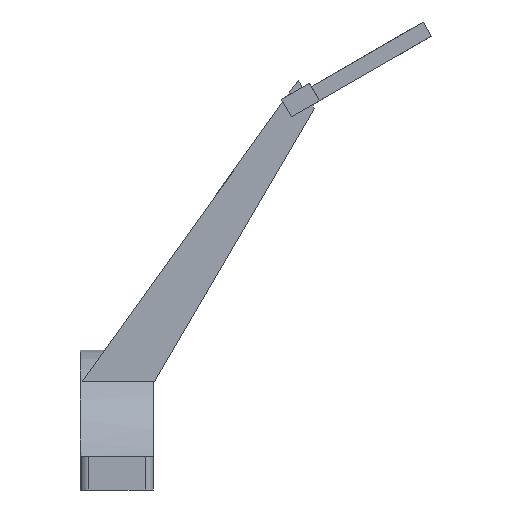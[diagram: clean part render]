
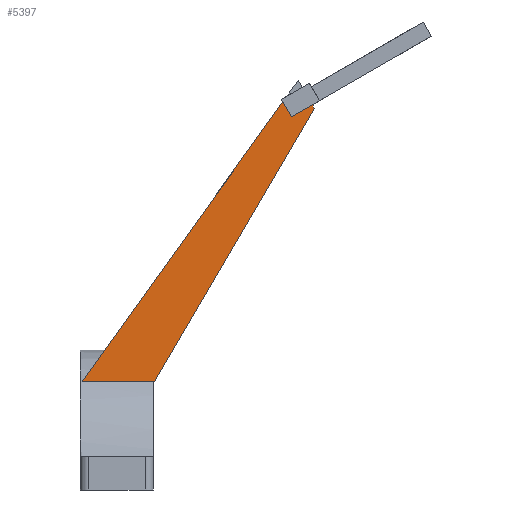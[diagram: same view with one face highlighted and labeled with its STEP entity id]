
A CAD part, front view. The second image highlights one B-rep face of the part: STEP entity #5397.
In plain terms, the highlighted planar face has unit normal (0, -1, 0).
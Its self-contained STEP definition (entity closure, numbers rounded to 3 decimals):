
#33 = CYLINDRICAL_SURFACE('',#34,35.3);
#34 = AXIS2_PLACEMENT_3D('',#35,#36,#37);
#35 = CARTESIAN_POINT('',(-54.,0.,0.));
#36 = DIRECTION('',(-1.,-0.,-0.));
#37 = DIRECTION('',(0.,1.,0.));
#307 = PLANE('',#308);
#308 = AXIS2_PLACEMENT_3D('',#309,#310,#311);
#309 = CARTESIAN_POINT('',(-36.,0.,0.)
  );
#310 = DIRECTION('',(1.,0.,0.));
#311 = DIRECTION('',(-0.,0.,1.));
#456 = VERTEX_POINT('',#457);
#457 = CARTESIAN_POINT('',(-53.565,-22.,27.606));
#475 = PLANE('',#476);
#476 = AXIS2_PLACEMENT_3D('',#477,#478,#479);
#477 = CARTESIAN_POINT('',(-0.124,-18.,102.098));
#478 = DIRECTION('',(0.813,0.,-0.583));
#479 = DIRECTION('',(-0.583,0.,-0.813));
#487 = EDGE_CURVE('',#488,#456,#490,.T.);
#488 = VERTEX_POINT('',#489);
#489 = CARTESIAN_POINT('',(-36.,-22.,27.606));
#490 = SURFACE_CURVE('',#491,(#495,#501),.PCURVE_S1.);
#491 = LINE('',#492,#493);
#492 = CARTESIAN_POINT('',(-54.,-22.,27.606));
#493 = VECTOR('',#494,1.);
#494 = DIRECTION('',(-1.,-0.,-0.));
#495 = PCURVE('',#33,#496);
#496 = DEFINITIONAL_REPRESENTATION('',(#497),#500);
#497 = B_SPLINE_CURVE_WITH_KNOTS('',1,(#498,#499),.UNSPECIFIED.,.F.,.F.,
  (2,2),(-18.,0.),.PIECEWISE_BEZIER_KNOTS.);
#498 = CARTESIAN_POINT('',(-2.244,-18.));
#499 = CARTESIAN_POINT('',(-2.244,0.));
#500 = ( GEOMETRIC_REPRESENTATION_CONTEXT(2) 
PARAMETRIC_REPRESENTATION_CONTEXT() REPRESENTATION_CONTEXT('2D SPACE',''
  ) );
#501 = PCURVE('',#502,#507);
#502 = PLANE('',#503);
#503 = AXIS2_PLACEMENT_3D('',#504,#505,#506);
#504 = CARTESIAN_POINT('',(-23.124,-22.,61.121));
#505 = DIRECTION('',(-0.,-1.,-0.));
#506 = DIRECTION('',(0.,0.,-1.));
#507 = DEFINITIONAL_REPRESENTATION('',(#508),#511);
#508 = B_SPLINE_CURVE_WITH_KNOTS('',1,(#509,#510),.UNSPECIFIED.,.F.,.F.,
  (2,2),(-18.,0.),.PIECEWISE_BEZIER_KNOTS.);
#509 = CARTESIAN_POINT('',(33.515,-12.876));
#510 = CARTESIAN_POINT('',(33.515,-30.876));
#511 = ( GEOMETRIC_REPRESENTATION_CONTEXT(2) 
PARAMETRIC_REPRESENTATION_CONTEXT() REPRESENTATION_CONTEXT('2D SPACE',''
  ) );
#1641 = PLANE('',#1642);
#1642 = AXIS2_PLACEMENT_3D('',#1643,#1644,#1645);
#1643 = CARTESIAN_POINT('',(15.5,0.,103.036));
#1644 = DIRECTION('',(0.5,0.,-0.866));
#1645 = DIRECTION('',(0.866,0.,0.5));
#2041 = VERTEX_POINT('',#2042);
#2042 = CARTESIAN_POINT('',(-1.821,-22.,93.036));
#2056 = PLANE('',#2057);
#2057 = AXIS2_PLACEMENT_3D('',#2058,#2059,#2060);
#2058 = CARTESIAN_POINT('',(-3.821,-20.,96.5));
#2059 = DIRECTION('',(0.866,0.,0.5));
#2060 = DIRECTION('',(0.,1.,0.));
#2068 = EDGE_CURVE('',#2069,#2041,#2071,.T.);
#2069 = VERTEX_POINT('',#2070);
#2070 = CARTESIAN_POINT('',(3.376,-22.,96.036));
#2071 = SURFACE_CURVE('',#2072,(#2076,#2082),.PCURVE_S1.);
#2072 = LINE('',#2073,#2074);
#2073 = CARTESIAN_POINT('',(-8.059,-22.,89.434));
#2074 = VECTOR('',#2075,1.);
#2075 = DIRECTION('',(-0.866,0.,-0.5));
#2076 = PCURVE('',#1641,#2077);
#2077 = DEFINITIONAL_REPRESENTATION('',(#2078),#2081);
#2078 = B_SPLINE_CURVE_WITH_KNOTS('',1,(#2079,#2080),.UNSPECIFIED.,.F.,
  .F.,(2,2),(-13.781,-7.204),.PIECEWISE_BEZIER_KNOTS.);
#2079 = CARTESIAN_POINT('',(-13.423,22.));
#2080 = CARTESIAN_POINT('',(-20.,22.));
#2081 = ( GEOMETRIC_REPRESENTATION_CONTEXT(2) 
PARAMETRIC_REPRESENTATION_CONTEXT() REPRESENTATION_CONTEXT('2D SPACE',''
  ) );
#2082 = PCURVE('',#502,#2083);
#2083 = DEFINITIONAL_REPRESENTATION('',(#2084),#2087);
#2084 = B_SPLINE_CURVE_WITH_KNOTS('',1,(#2085,#2086),.UNSPECIFIED.,.F.,
  .F.,(2,2),(-13.781,-7.204),.PIECEWISE_BEZIER_KNOTS.);
#2085 = CARTESIAN_POINT('',(-35.204,27.));
#2086 = CARTESIAN_POINT('',(-31.915,21.304));
#2087 = ( GEOMETRIC_REPRESENTATION_CONTEXT(2) 
PARAMETRIC_REPRESENTATION_CONTEXT() REPRESENTATION_CONTEXT('2D SPACE',''
  ) );
#2104 = PLANE('',#2105);
#2105 = AXIS2_PLACEMENT_3D('',#2106,#2107,#2108);
#2106 = CARTESIAN_POINT('',(3.876,-18.,95.17));
#2107 = DIRECTION('',(-0.866,-0.,-0.5));
#2108 = DIRECTION('',(-0.5,0.,0.866));
#4946 = EDGE_CURVE('',#4947,#2041,#4949,.T.);
#4947 = VERTEX_POINT('',#4948);
#4948 = CARTESIAN_POINT('',(-3.963,-22.,96.747));
#4949 = SURFACE_CURVE('',#4950,(#4954,#4960),.PCURVE_S1.);
#4950 = LINE('',#4951,#4952);
#4951 = CARTESIAN_POINT('',(1.426,-22.,87.412));
#4952 = VECTOR('',#4953,1.);
#4953 = DIRECTION('',(0.5,0.,-0.866));
#4954 = PCURVE('',#2056,#4955);
#4955 = DEFINITIONAL_REPRESENTATION('',(#4956),#4959);
#4956 = B_SPLINE_CURVE_WITH_KNOTS('',1,(#4957,#4958),.UNSPECIFIED.,.F.,
  .F.,(2,2),(-11.494,-6.494),.PIECEWISE_BEZIER_KNOTS.);
#4957 = CARTESIAN_POINT('',(-2.,1.));
#4958 = CARTESIAN_POINT('',(-2.,-4.));
#4959 = ( GEOMETRIC_REPRESENTATION_CONTEXT(2) 
PARAMETRIC_REPRESENTATION_CONTEXT() REPRESENTATION_CONTEXT('2D SPACE',''
  ) );
#4960 = PCURVE('',#502,#4961);
#4961 = DEFINITIONAL_REPRESENTATION('',(#4962),#4965);
#4962 = B_SPLINE_CURVE_WITH_KNOTS('',1,(#4963,#4964),.UNSPECIFIED.,.F.,
  .F.,(2,2),(-11.494,-6.494),.PIECEWISE_BEZIER_KNOTS.);
#4963 = CARTESIAN_POINT('',(-36.245,18.804));
#4964 = CARTESIAN_POINT('',(-31.915,21.304));
#4965 = ( GEOMETRIC_REPRESENTATION_CONTEXT(2) 
PARAMETRIC_REPRESENTATION_CONTEXT() REPRESENTATION_CONTEXT('2D SPACE',''
  ) );
#5038 = VERTEX_POINT('',#5039);
#5039 = CARTESIAN_POINT('',(3.876,-22.,95.17));
#5053 = PLANE('',#5054);
#5054 = AXIS2_PLACEMENT_3D('',#5055,#5056,#5057);
#5055 = CARTESIAN_POINT('',(-36.,-18.,27.));
#5056 = DIRECTION('',(-0.863,0.,0.505));
#5057 = DIRECTION('',(0.505,0.,0.863));
#5065 = EDGE_CURVE('',#5038,#2069,#5066,.T.);
#5066 = SURFACE_CURVE('',#5067,(#5071,#5078),.PCURVE_S1.);
#5067 = LINE('',#5068,#5069);
#5068 = CARTESIAN_POINT('',(3.876,-22.,95.17));
#5069 = VECTOR('',#5070,1.);
#5070 = DIRECTION('',(-0.5,0.,0.866));
#5071 = PCURVE('',#2104,#5072);
#5072 = DEFINITIONAL_REPRESENTATION('',(#5073),#5077);
#5073 = LINE('',#5074,#5075);
#5074 = CARTESIAN_POINT('',(0.,-4.));
#5075 = VECTOR('',#5076,1.);
#5076 = DIRECTION('',(1.,0.));
#5077 = ( GEOMETRIC_REPRESENTATION_CONTEXT(2) 
PARAMETRIC_REPRESENTATION_CONTEXT() REPRESENTATION_CONTEXT('2D SPACE',''
  ) );
#5078 = PCURVE('',#502,#5079);
#5079 = DEFINITIONAL_REPRESENTATION('',(#5080),#5084);
#5080 = LINE('',#5081,#5082);
#5081 = CARTESIAN_POINT('',(-34.049,27.));
#5082 = VECTOR('',#5083,1.);
#5083 = DIRECTION('',(-0.866,-0.5));
#5084 = ( GEOMETRIC_REPRESENTATION_CONTEXT(2) 
PARAMETRIC_REPRESENTATION_CONTEXT() REPRESENTATION_CONTEXT('2D SPACE',''
  ) );
#5093 = VERTEX_POINT('',#5094);
#5094 = CARTESIAN_POINT('',(-36.,-22.,27.));
#5115 = EDGE_CURVE('',#5093,#5038,#5116,.T.);
#5116 = SURFACE_CURVE('',#5117,(#5121,#5128),.PCURVE_S1.);
#5117 = LINE('',#5118,#5119);
#5118 = CARTESIAN_POINT('',(-36.,-22.,27.));
#5119 = VECTOR('',#5120,1.);
#5120 = DIRECTION('',(0.505,0.,0.863));
#5121 = PCURVE('',#5053,#5122);
#5122 = DEFINITIONAL_REPRESENTATION('',(#5123),#5127);
#5123 = LINE('',#5124,#5125);
#5124 = CARTESIAN_POINT('',(0.,-4.));
#5125 = VECTOR('',#5126,1.);
#5126 = DIRECTION('',(1.,0.));
#5127 = ( GEOMETRIC_REPRESENTATION_CONTEXT(2) 
PARAMETRIC_REPRESENTATION_CONTEXT() REPRESENTATION_CONTEXT('2D SPACE',''
  ) );
#5128 = PCURVE('',#502,#5129);
#5129 = DEFINITIONAL_REPRESENTATION('',(#5130),#5134);
#5130 = LINE('',#5131,#5132);
#5131 = CARTESIAN_POINT('',(34.121,-12.876));
#5132 = VECTOR('',#5133,1.);
#5133 = DIRECTION('',(-0.863,0.505));
#5134 = ( GEOMETRIC_REPRESENTATION_CONTEXT(2) 
PARAMETRIC_REPRESENTATION_CONTEXT() REPRESENTATION_CONTEXT('2D SPACE',''
  ) );
#5376 = EDGE_CURVE('',#4947,#456,#5377,.T.);
#5377 = SURFACE_CURVE('',#5378,(#5382,#5389),.PCURVE_S1.);
#5378 = LINE('',#5379,#5380);
#5379 = CARTESIAN_POINT('',(-0.124,-22.,102.098));
#5380 = VECTOR('',#5381,1.);
#5381 = DIRECTION('',(-0.583,0.,-0.813));
#5382 = PCURVE('',#475,#5383);
#5383 = DEFINITIONAL_REPRESENTATION('',(#5384),#5388);
#5384 = LINE('',#5385,#5386);
#5385 = CARTESIAN_POINT('',(-0.,-4.));
#5386 = VECTOR('',#5387,1.);
#5387 = DIRECTION('',(1.,0.));
#5388 = ( GEOMETRIC_REPRESENTATION_CONTEXT(2) 
PARAMETRIC_REPRESENTATION_CONTEXT() REPRESENTATION_CONTEXT('2D SPACE',''
  ) );
#5389 = PCURVE('',#502,#5390);
#5390 = DEFINITIONAL_REPRESENTATION('',(#5391),#5395);
#5391 = LINE('',#5392,#5393);
#5392 = CARTESIAN_POINT('',(-40.978,23.));
#5393 = VECTOR('',#5394,1.);
#5394 = DIRECTION('',(0.813,-0.583));
#5395 = ( GEOMETRIC_REPRESENTATION_CONTEXT(2) 
PARAMETRIC_REPRESENTATION_CONTEXT() REPRESENTATION_CONTEXT('2D SPACE',''
  ) );
#5397 = ADVANCED_FACE('',(#5398),#502,.T.);
#5398 = FACE_BOUND('',#5399,.T.);
#5399 = EDGE_LOOP('',(#5400,#5419,#5420,#5421,#5422,#5423,#5424));
#5400 = ORIENTED_EDGE('',*,*,#5401,.T.);
#5401 = EDGE_CURVE('',#488,#5093,#5402,.T.);
#5402 = SURFACE_CURVE('',#5403,(#5407,#5413),.PCURVE_S1.);
#5403 = LINE('',#5404,#5405);
#5404 = CARTESIAN_POINT('',(-36.,-22.,30.56));
#5405 = VECTOR('',#5406,1.);
#5406 = DIRECTION('',(0.,0.,-1.));
#5407 = PCURVE('',#502,#5408);
#5408 = DEFINITIONAL_REPRESENTATION('',(#5409),#5412);
#5409 = B_SPLINE_CURVE_WITH_KNOTS('',1,(#5410,#5411),.UNSPECIFIED.,.F.,
  .F.,(2,2),(-4.74,3.56),.PIECEWISE_BEZIER_KNOTS.);
#5410 = CARTESIAN_POINT('',(25.821,-12.876));
#5411 = CARTESIAN_POINT('',(34.121,-12.876));
#5412 = ( GEOMETRIC_REPRESENTATION_CONTEXT(2) 
PARAMETRIC_REPRESENTATION_CONTEXT() REPRESENTATION_CONTEXT('2D SPACE',''
  ) );
#5413 = PCURVE('',#307,#5414);
#5414 = DEFINITIONAL_REPRESENTATION('',(#5415),#5418);
#5415 = B_SPLINE_CURVE_WITH_KNOTS('',1,(#5416,#5417),.UNSPECIFIED.,.F.,
  .F.,(2,2),(-4.74,3.56),.PIECEWISE_BEZIER_KNOTS.);
#5416 = CARTESIAN_POINT('',(35.3,22.));
#5417 = CARTESIAN_POINT('',(27.,22.));
#5418 = ( GEOMETRIC_REPRESENTATION_CONTEXT(2) 
PARAMETRIC_REPRESENTATION_CONTEXT() REPRESENTATION_CONTEXT('2D SPACE',''
  ) );
#5419 = ORIENTED_EDGE('',*,*,#5115,.T.);
#5420 = ORIENTED_EDGE('',*,*,#5065,.T.);
#5421 = ORIENTED_EDGE('',*,*,#2068,.T.);
#5422 = ORIENTED_EDGE('',*,*,#4946,.F.);
#5423 = ORIENTED_EDGE('',*,*,#5376,.T.);
#5424 = ORIENTED_EDGE('',*,*,#487,.F.);
